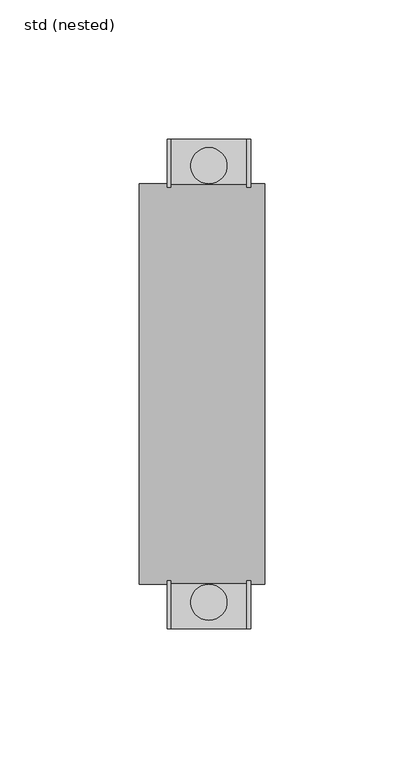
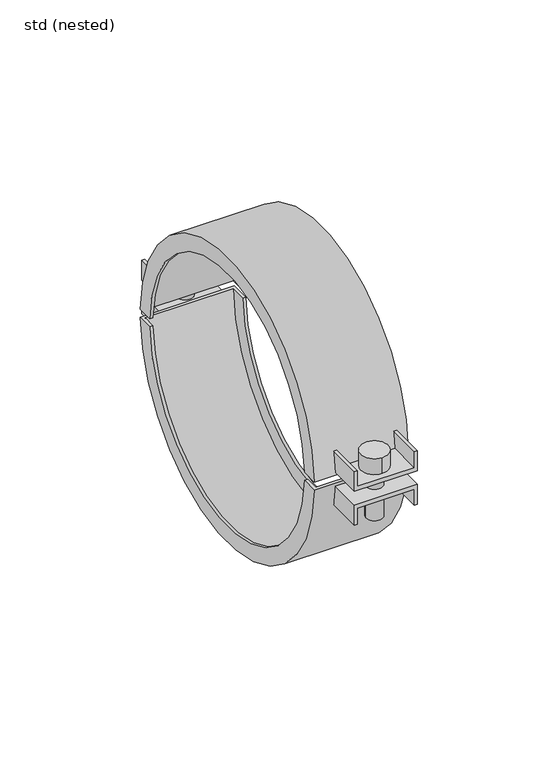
"""IFC4 building model written with IfcOpenShell, lengths in millimetres: pipe fitting geometry, ZZZ_do not use_PIF_ST_UN_ACO pipe socket clamp two parts_ACO : std (nested)."""

from ifc_helpers import new_model, si_unit, point, frame, frame_2d, origin, place, context, project, spatial, polyline, circle_curve, trimmed, segment, composite_curve, outline, extrude, source, transform, mapped, element, save
from ifc_brep_helpers import plane_surface, cylinder_surface, revolved_surface, advanced_brep


def std_nested_4a7fe435(model_context):
    return source(origin(), model_context, "Body", "SolidModel", [
        advanced_brep(
        [(-22.5, 71.9722169, -2.0), (-22.5, -71.9722169, -2.0), (-22.5, -63.9687424, -2.0), (-22.5, 63.9687424, -2.0), (-21.0, -63.9687424, -2.0), (-21.0, 63.9687424, -2.0), (-21.0, -70.4716255, -2.0), (-21.0, 70.4716255, -2.0), (21.0, -70.4716255, -2.0), (21.0, 70.4716255, -2.0), (21.0, -62.4679918, -2.0), (21.0, 62.4679918, -2.0), (22.5, -62.4679918, -2.0), (22.5, 62.4679918, -2.0), (22.5, -71.9722169, -2.0), (22.5, 71.9722169, -2.0)],
        [
            (0, 1, circle_curve(frame((-22.5, 0.0, 0.0), z_axis=(-1.0, 0.0, 0.0), x_axis=(0.0, 1.0, 0.0)), 72.0)),
            (1, 2),
            (2, 3, circle_curve(frame((-22.5, 0.0, 0.0), z_axis=(1.0, 0.0, 0.0), x_axis=(0.0, 1.0, 0.0)), 64.0)),
            (3, 0),
            (2, 4),
            (4, 5, circle_curve(frame((-21.0, 0.0, 0.0), z_axis=(1.0, 0.0, 0.0), x_axis=(0.0, 1.0, 0.0)), 64.0)),
            (5, 3),
            (4, 6),
            (6, 7, circle_curve(frame((-21.0, 0.0, 0.0), z_axis=(1.0, 0.0, 0.0), x_axis=(0.0, 1.0, 0.0)), 70.5)),
            (7, 5),
            (6, 8),
            (8, 9, circle_curve(frame((21.0, 0.0, 0.0), z_axis=(1.0, 0.0, 0.0), x_axis=(0.0, 1.0, 0.0)), 70.5)),
            (9, 7),
            (8, 10),
            (10, 11, circle_curve(frame((21.0, 0.0, 0.0), z_axis=(1.0, 0.0, 0.0), x_axis=(0.0, 1.0, 0.0)), 62.5)),
            (11, 9),
            (10, 12),
            (12, 13, circle_curve(frame((22.5, 0.0, 0.0), z_axis=(1.0, 0.0, 0.0), x_axis=(0.0, 1.0, 0.0)), 62.5)),
            (13, 11),
            (12, 14),
            (14, 15, circle_curve(frame((22.5, 0.0, 0.0), z_axis=(1.0, 0.0, 0.0), x_axis=(0.0, 1.0, 0.0)), 72.0)),
            (15, 13),
            (0, 15),
            (14, 1),
        ],
        [
            plane_surface(frame((-22.5, 0.0, 0.0), z_axis=(-1.0, 0.0, 0.0), x_axis=(0.0, 1.0, 0.0))),
            revolved_surface(polyline([(-22.5, 64.0, 0.0), (-21.0, 64.0, 0.0)]), (-37.5, 0.0, 0.0), (-1.0, 0.0, 0.0)),
            plane_surface(frame((-21.0, 0.0, 0.0), z_axis=(1.0, 0.0, 0.0), x_axis=(0.0, 1.0, 0.0))),
            revolved_surface(polyline([(-21.0, 70.5, 0.0), (21.0, 70.5, 0.0)]), (-37.5, 0.0, 0.0), (-1.0, 0.0, 0.0)),
            plane_surface(frame((21.0, 0.0, 0.0), z_axis=(-1.0, 0.0, 0.0), x_axis=(0.0, 1.0, 0.0))),
            revolved_surface(polyline([(21.0, 62.5, 0.0), (22.5, 62.5, 0.0)]), (-37.5, 0.0, 0.0), (-1.0, 0.0, 0.0)),
            plane_surface(frame((22.5, 0.0, 0.0), z_axis=(1.0, 0.0, 0.0), x_axis=(0.0, 1.0, 0.0))),
            cylinder_surface(frame((-37.5, 0.0, 0.0), z_axis=(-1.0, 0.0, 0.0), x_axis=(0.0, 1.0, 0.0)), 72.0),
            plane_surface(frame((22.5, -73.0, -2.0), z_axis=(0.0, 0.0, 1.0), x_axis=(-1.0, 0.0, 0.0))),
        ],
        [
            (0, [[1, 2, 3, 4]]),
            (1, [[-3, 5, 6, 7]]),
            (2, [[-6, 8, 9, 10]]),
            (3, [[-9, 11, 12, 13]]),
            (4, [[-12, 14, 15, 16]]),
            (5, [[-15, 17, 18, 19]]),
            (6, [[-18, 20, 21, 22]]),
            (7, [[-1, 23, -21, 24]]),
            (8, [[-2, -24, -20, -17, -14, -11, -8, -5]]),
            (8, [[-4, -7, -10, -13, -16, -19, -22, -23]]),
        ],
    ),
        advanced_brep(
        [(-22.5, -71.9722169, 2.0), (-22.5, 71.9722169, 2.0), (-22.5, 63.9687424, 2.0), (-22.5, -63.9687424, 2.0), (-21.0, 63.9687424, 2.0), (-21.0, -63.9687424, 2.0), (-21.0, 70.4716255, 2.0), (-21.0, -70.4716255, 2.0), (21.0, 70.4716255, 2.0), (21.0, -70.4716255, 2.0), (21.0, 62.4679918, 2.0), (21.0, -62.4679918, 2.0), (22.5, 62.4679918, 2.0), (22.5, -62.4679918, 2.0), (22.5, 71.9722169, 2.0), (22.5, -71.9722169, 2.0)],
        [
            (0, 1, circle_curve(frame((-22.5, 0.0, 0.0), z_axis=(-1.0, 0.0, 0.0), x_axis=(0.0, 1.0, 0.0)), 72.0)),
            (1, 2),
            (2, 3, circle_curve(frame((-22.5, 0.0, 0.0), z_axis=(1.0, 0.0, 0.0), x_axis=(0.0, 1.0, 0.0)), 64.0)),
            (3, 0),
            (2, 4),
            (4, 5, circle_curve(frame((-21.0, 0.0, 0.0), z_axis=(1.0, 0.0, 0.0), x_axis=(0.0, 1.0, 0.0)), 64.0)),
            (5, 3),
            (4, 6),
            (6, 7, circle_curve(frame((-21.0, 0.0, 0.0), z_axis=(1.0, 0.0, 0.0), x_axis=(0.0, 1.0, 0.0)), 70.5)),
            (7, 5),
            (6, 8),
            (8, 9, circle_curve(frame((21.0, 0.0, 0.0), z_axis=(1.0, 0.0, 0.0), x_axis=(0.0, 1.0, 0.0)), 70.5)),
            (9, 7),
            (8, 10),
            (10, 11, circle_curve(frame((21.0, 0.0, 0.0), z_axis=(1.0, 0.0, 0.0), x_axis=(0.0, 1.0, 0.0)), 62.5)),
            (11, 9),
            (10, 12),
            (12, 13, circle_curve(frame((22.5, 0.0, 0.0), z_axis=(1.0, 0.0, 0.0), x_axis=(0.0, 1.0, 0.0)), 62.5)),
            (13, 11),
            (12, 14),
            (14, 15, circle_curve(frame((22.5, 0.0, 0.0), z_axis=(1.0, 0.0, 0.0), x_axis=(0.0, 1.0, 0.0)), 72.0)),
            (15, 13),
            (0, 15),
            (14, 1),
        ],
        [
            plane_surface(frame((-22.5, 0.0, 0.0), z_axis=(-1.0, 0.0, 0.0), x_axis=(0.0, 1.0, 0.0))),
            revolved_surface(polyline([(-22.5, 64.0, 0.0), (-21.0, 64.0, 0.0)]), (-37.5, 0.0, 0.0), (-1.0, 0.0, 0.0)),
            plane_surface(frame((-21.0, 0.0, 0.0), z_axis=(1.0, 0.0, 0.0), x_axis=(0.0, 1.0, 0.0))),
            revolved_surface(polyline([(-21.0, 70.5, 0.0), (21.0, 70.5, 0.0)]), (-37.5, 0.0, 0.0), (-1.0, 0.0, 0.0)),
            plane_surface(frame((21.0, 0.0, 0.0), z_axis=(-1.0, 0.0, 0.0), x_axis=(0.0, 1.0, 0.0))),
            revolved_surface(polyline([(21.0, 62.5, 0.0), (22.5, 62.5, 0.0)]), (-37.5, 0.0, 0.0), (-1.0, 0.0, 0.0)),
            plane_surface(frame((22.5, 0.0, 0.0), z_axis=(1.0, 0.0, 0.0), x_axis=(0.0, 1.0, 0.0))),
            cylinder_surface(frame((-37.5, 0.0, 0.0), z_axis=(-1.0, 0.0, 0.0), x_axis=(0.0, 1.0, 0.0)), 72.0),
            plane_surface(frame((22.5, 73.0, 2.0), z_axis=(0.0, 0.0, -1.0), x_axis=(-1.0, 0.0, 0.0))),
        ],
        [
            (0, [[1, 2, 3, 4]]),
            (1, [[-3, 5, 6, 7]]),
            (2, [[-6, 8, 9, 10]]),
            (3, [[-9, 11, 12, 13]]),
            (4, [[-12, 14, 15, 16]]),
            (5, [[-15, 17, 18, 19]]),
            (6, [[-18, 20, 21, 22]]),
            (7, [[-1, 23, -21, 24]]),
            (8, [[-2, -24, -20, -17, -14, -11, -8, -5]]),
            (8, [[-4, -7, -10, -13, -16, -19, -22, -23]]),
        ],
    ),
        extrude(outline(composite_curve([segment(trimmed(circle_curve(frame_2d((2.5, -78.4)), 6.5), [point((2.5, -71.9))], [point((2.5, -84.9))], False, "CARTESIAN"), True, "CONTINUOUS"), segment(trimmed(circle_curve(frame_2d((2.5, -78.4)), 6.5), [point((2.5, -84.9))], [point((2.5, -71.9))], False, "CARTESIAN"), True, "CONTINUOUS")], self_intersect=False)), frame((0.0, 0.0, 5.5), z_axis=(0.0, 0.0, 1.0), x_axis=(1.0, 0.0, 0.0)), (0.0, 0.0, 1.0), 8.0),
        extrude(outline(composite_curve([segment(trimmed(circle_curve(frame_2d((2.5, -78.4)), 4.0), [point((-1.5, -78.4))], [point((6.5, -78.4))], False, "CARTESIAN"), True, "CONTINUOUS"), segment(trimmed(circle_curve(frame_2d((2.5, -78.4)), 4.0), [point((6.5, -78.4))], [point((-1.5, -78.4))], False, "CARTESIAN"), True, "CONTINUOUS")], self_intersect=False)), frame((0.0, 0.0, -19.5), z_axis=(0.0, 0.0, 1.0), x_axis=(1.0, 0.0, 0.0)), (0.0, 0.0, 1.0), 25.0),
        advanced_brep(
        [(-12.5, -87.9, -3.5), (-12.5, -87.9, -13.5), (-11.123617, -87.9, -13.5), (-11.123617, -87.9, -5.5), (16.123617, -87.9, -5.5), (16.123617, -87.9, -13.5), (17.5, -87.9, -13.5), (17.5, -87.9, -3.5), (17.5, -70.413067, -3.5), (-12.5, -70.413067, -3.5), (17.5, -69.1953756, -13.5), (16.123617, -69.1953756, -13.5), (16.123617, -70.2851336, -5.5), (-11.123617, -70.2851336, -5.5), (-11.123617, -69.1953756, -13.5), (-12.5, -69.1953756, -13.5)],
        [
            (0, 1),
            (1, 2),
            (2, 3),
            (3, 4),
            (4, 5),
            (5, 6),
            (6, 7),
            (7, 0),
            (7, 8),
            (8, 9),
            (9, 0),
            (6, 10),
            (10, 8, circle_curve(frame((17.5, 0.0, 0.0), z_axis=(-1.0, 0.0, 0.0), x_axis=(0.0, 1.0, 0.0)), 70.5)),
            (5, 11),
            (11, 10),
            (4, 12),
            (12, 11, circle_curve(frame((16.123617, 0.0, 0.0), z_axis=(1.0, 0.0, 0.0), x_axis=(0.0, 1.0, 0.0)), 70.5)),
            (3, 13),
            (13, 12),
            (2, 14),
            (14, 13, circle_curve(frame((-11.123617, 0.0, 0.0), z_axis=(-1.0, 0.0, 0.0), x_axis=(0.0, 1.0, 0.0)), 70.5)),
            (1, 15),
            (15, 14),
            (9, 15, circle_curve(frame((-12.5, 0.0, 0.0), z_axis=(1.0, 0.0, 0.0), x_axis=(0.0, 1.0, 0.0)), 70.5)),
        ],
        [
            plane_surface(frame((2.5, -87.9, -3.5), z_axis=(0.0, -1.0, 0.0), x_axis=(0.0, 0.0, 1.0))),
            plane_surface(frame((17.5, -87.9, -3.5), z_axis=(0.0, 0.0, 1.0), x_axis=(0.0, 1.0, 0.0))),
            plane_surface(frame((17.5, -87.9, -13.5), z_axis=(1.0, 0.0, 0.0), x_axis=(0.0, 1.0, 0.0))),
            plane_surface(frame((16.123617, -87.9, -13.5), z_axis=(0.0, 0.0, -1.0), x_axis=(0.0, 1.0, 0.0))),
            plane_surface(frame((16.123617, -87.9, -5.5), z_axis=(-1.0, 0.0, 0.0), x_axis=(0.0, 1.0, 0.0))),
            plane_surface(frame((-11.123617, -87.9, -5.5), z_axis=(0.0, 0.0, -1.0), x_axis=(0.0, 1.0, 0.0))),
            plane_surface(frame((-11.123617, -87.9, -13.5), z_axis=(1.0, 0.0, 0.0), x_axis=(0.0, 1.0, 0.0))),
            plane_surface(frame((-12.5, -87.9, -13.5), z_axis=(0.0, 0.0, -1.0), x_axis=(0.0, 1.0, 0.0))),
            plane_surface(frame((-12.5, -87.9, -3.5), z_axis=(-1.0, 0.0, 0.0), x_axis=(0.0, 1.0, 0.0))),
            revolved_surface(polyline([(-12.5, 70.5, 0.0), (17.5, 70.5, 0.0)]), (-60.75, 0.0, 0.0), (-1.0, 0.0, 0.0)),
        ],
        [
            (0, [[1, 2, 3, 4, 5, 6, 7, 8]]),
            (1, [[-8, 9, 10, 11]]),
            (2, [[-7, 12, 13, -9]]),
            (3, [[-6, 14, 15, -12]]),
            (4, [[-5, 16, 17, -14]]),
            (5, [[-4, 18, 19, -16]]),
            (6, [[-3, 20, 21, -18]]),
            (7, [[-2, 22, 23, -20]]),
            (8, [[-1, -11, 24, -22]]),
            (9, [[-10, -13, -15, -17, -19, -21, -23, -24]]),
        ],
    ),
        advanced_brep(
        [(-12.5, 87.9, -3.5), (17.5, 87.9, -3.5), (17.5, 87.9, -13.5), (16.123617, 87.9, -13.5), (16.123617, 87.9, -5.5), (-11.123617, 87.9, -5.5), (-11.123617, 87.9, -13.5), (-12.5, 87.9, -13.5), (-12.5, 70.413067, -3.5), (17.5, 70.413067, -3.5), (17.5, 69.1953756, -13.5), (16.123617, 69.1953756, -13.5), (16.123617, 70.2851336, -5.5), (-11.123617, 70.2851336, -5.5), (-11.123617, 69.1953756, -13.5), (-12.5, 69.1953756, -13.5)],
        [
            (0, 1),
            (1, 2),
            (2, 3),
            (3, 4),
            (4, 5),
            (5, 6),
            (6, 7),
            (7, 0),
            (0, 8),
            (8, 9),
            (9, 1),
            (9, 10, circle_curve(frame((17.5, 0.0, 0.0), z_axis=(-1.0, 0.0, 0.0), x_axis=(0.0, 1.0, 0.0)), 70.5)),
            (10, 2),
            (10, 11),
            (11, 3),
            (11, 12, circle_curve(frame((16.123617, 0.0, 0.0), z_axis=(1.0, 0.0, 0.0), x_axis=(0.0, 1.0, 0.0)), 70.5)),
            (12, 4),
            (12, 13),
            (13, 5),
            (13, 14, circle_curve(frame((-11.123617, 0.0, 0.0), z_axis=(-1.0, 0.0, 0.0), x_axis=(0.0, 1.0, 0.0)), 70.5)),
            (14, 6),
            (14, 15),
            (15, 7),
            (15, 8, circle_curve(frame((-12.5, 0.0, 0.0), z_axis=(1.0, 0.0, 0.0), x_axis=(0.0, 1.0, 0.0)), 70.5)),
        ],
        [
            plane_surface(frame((2.5, 87.9, -3.5), z_axis=(0.0, 1.0, 0.0), x_axis=(0.0, 0.0, 1.0))),
            plane_surface(frame((17.5, -87.9, -3.5), z_axis=(0.0, 0.0, 1.0), x_axis=(0.0, 1.0, 0.0))),
            plane_surface(frame((17.5, -87.9, -13.5), z_axis=(1.0, 0.0, 0.0), x_axis=(0.0, 1.0, 0.0))),
            plane_surface(frame((16.123617, -87.9, -13.5), z_axis=(0.0, 0.0, -1.0), x_axis=(0.0, 1.0, 0.0))),
            plane_surface(frame((16.123617, -87.9, -5.5), z_axis=(-1.0, 0.0, 0.0), x_axis=(0.0, 1.0, 0.0))),
            plane_surface(frame((-11.123617, -87.9, -5.5), z_axis=(0.0, 0.0, -1.0), x_axis=(0.0, 1.0, 0.0))),
            plane_surface(frame((-11.123617, -87.9, -13.5), z_axis=(1.0, 0.0, 0.0), x_axis=(0.0, 1.0, 0.0))),
            plane_surface(frame((-12.5, -87.9, -13.5), z_axis=(0.0, 0.0, -1.0), x_axis=(0.0, 1.0, 0.0))),
            plane_surface(frame((-12.5, -87.9, -3.5), z_axis=(-1.0, 0.0, 0.0), x_axis=(0.0, 1.0, 0.0))),
            revolved_surface(polyline([(-12.5, 70.5, 0.0), (17.5, 70.5, 0.0)]), (-60.75, 0.0, 0.0), (-1.0, 0.0, 0.0)),
        ],
        [
            (0, [[1, 2, 3, 4, 5, 6, 7, 8]]),
            (1, [[-1, 9, 10, 11]]),
            (2, [[-2, -11, 12, 13]]),
            (3, [[-3, -13, 14, 15]]),
            (4, [[-4, -15, 16, 17]]),
            (5, [[-5, -17, 18, 19]]),
            (6, [[-6, -19, 20, 21]]),
            (7, [[-7, -21, 22, 23]]),
            (8, [[-8, -23, 24, -9]]),
            (9, [[-10, -24, -22, -20, -18, -16, -14, -12]]),
        ],
    ),
        advanced_brep(
        [(-12.5, -87.9, 3.5), (17.5, -87.9, 3.5), (17.5, -87.9, 13.5), (16.123617, -87.9, 13.5), (16.123617, -87.9, 5.5), (-11.123617, -87.9, 5.5), (-11.123617, -87.9, 13.5), (-12.5, -87.9, 13.5), (-12.5, -70.413067, 3.5), (17.5, -70.413067, 3.5), (17.5, -69.1953756, 13.5), (16.123617, -69.1953756, 13.5), (16.123617, -70.2851336, 5.5), (-11.123617, -70.2851336, 5.5), (-11.123617, -69.1953756, 13.5), (-12.5, -69.1953756, 13.5)],
        [
            (0, 1),
            (1, 2),
            (2, 3),
            (3, 4),
            (4, 5),
            (5, 6),
            (6, 7),
            (7, 0),
            (0, 8),
            (8, 9),
            (9, 1),
            (9, 10, circle_curve(frame((17.5, 0.0, 0.0), z_axis=(-1.0, 0.0, 0.0), x_axis=(0.0, 1.0, 0.0)), 70.5)),
            (10, 2),
            (10, 11),
            (11, 3),
            (11, 12, circle_curve(frame((16.123617, 0.0, 0.0), z_axis=(1.0, 0.0, 0.0), x_axis=(0.0, 1.0, 0.0)), 70.5)),
            (12, 4),
            (12, 13),
            (13, 5),
            (13, 14, circle_curve(frame((-11.123617, 0.0, 0.0), z_axis=(-1.0, 0.0, 0.0), x_axis=(0.0, 1.0, 0.0)), 70.5)),
            (14, 6),
            (14, 15),
            (15, 7),
            (15, 8, circle_curve(frame((-12.5, 0.0, 0.0), z_axis=(1.0, 0.0, 0.0), x_axis=(0.0, 1.0, 0.0)), 70.5)),
        ],
        [
            plane_surface(frame((2.5, -87.9, 3.5), z_axis=(0.0, -1.0, 0.0), x_axis=(0.0, 0.0, 1.0))),
            plane_surface(frame((-12.5, -87.9, 3.5), z_axis=(0.0, 0.0, -1.0), x_axis=(0.0, 1.0, 0.0))),
            plane_surface(frame((17.5, -87.9, 3.5), z_axis=(1.0, 0.0, 0.0), x_axis=(0.0, 1.0, 0.0))),
            plane_surface(frame((17.5, -87.9, 13.5), z_axis=(0.0, 0.0, 1.0), x_axis=(0.0, 1.0, 0.0))),
            plane_surface(frame((16.123617, -87.9, 13.5), z_axis=(-1.0, 0.0, 0.0), x_axis=(0.0, 1.0, 0.0))),
            plane_surface(frame((16.123617, -87.9, 5.5), z_axis=(0.0, 0.0, 1.0), x_axis=(0.0, 1.0, 0.0))),
            plane_surface(frame((-11.123617, -87.9, 5.5), z_axis=(1.0, 0.0, 0.0), x_axis=(0.0, 1.0, 0.0))),
            plane_surface(frame((-11.123617, -87.9, 13.5), z_axis=(0.0, 0.0, 1.0), x_axis=(0.0, 1.0, 0.0))),
            plane_surface(frame((-12.5, -87.9, 13.5), z_axis=(-1.0, 0.0, 0.0), x_axis=(0.0, 1.0, 0.0))),
            revolved_surface(polyline([(-12.5, 70.5, 0.0), (17.5, 70.5, 0.0)]), (-60.75, 0.0, 0.0), (-1.0, 0.0, 0.0)),
        ],
        [
            (0, [[1, 2, 3, 4, 5, 6, 7, 8]]),
            (1, [[-1, 9, 10, 11]]),
            (2, [[-2, -11, 12, 13]]),
            (3, [[-3, -13, 14, 15]]),
            (4, [[-4, -15, 16, 17]]),
            (5, [[-5, -17, 18, 19]]),
            (6, [[-6, -19, 20, 21]]),
            (7, [[-7, -21, 22, 23]]),
            (8, [[-8, -23, 24, -9]]),
            (9, [[-10, -24, -22, -20, -18, -16, -14, -12]]),
        ],
    ),
        advanced_brep(
        [(-12.5, 87.9, 3.5), (-12.5, 87.9, 13.5), (-11.123617, 87.9, 13.5), (-11.123617, 87.9, 5.5), (16.123617, 87.9, 5.5), (16.123617, 87.9, 13.5), (17.5, 87.9, 13.5), (17.5, 87.9, 3.5), (17.5, 70.413067, 3.5), (-12.5, 70.413067, 3.5), (17.5, 69.1953756, 13.5), (16.123617, 69.1953756, 13.5), (16.123617, 70.2851336, 5.5), (-11.123617, 70.2851336, 5.5), (-11.123617, 69.1953756, 13.5), (-12.5, 69.1953756, 13.5)],
        [
            (0, 1),
            (1, 2),
            (2, 3),
            (3, 4),
            (4, 5),
            (5, 6),
            (6, 7),
            (7, 0),
            (7, 8),
            (8, 9),
            (9, 0),
            (6, 10),
            (10, 8, circle_curve(frame((17.5, 0.0, 0.0), z_axis=(-1.0, 0.0, 0.0), x_axis=(0.0, 1.0, 0.0)), 70.5)),
            (5, 11),
            (11, 10),
            (4, 12),
            (12, 11, circle_curve(frame((16.123617, 0.0, 0.0), z_axis=(1.0, 0.0, 0.0), x_axis=(0.0, 1.0, 0.0)), 70.5)),
            (3, 13),
            (13, 12),
            (2, 14),
            (14, 13, circle_curve(frame((-11.123617, 0.0, 0.0), z_axis=(-1.0, 0.0, 0.0), x_axis=(0.0, 1.0, 0.0)), 70.5)),
            (1, 15),
            (15, 14),
            (9, 15, circle_curve(frame((-12.5, 0.0, 0.0), z_axis=(1.0, 0.0, 0.0), x_axis=(0.0, 1.0, 0.0)), 70.5)),
        ],
        [
            plane_surface(frame((2.5, 87.9, 3.5), z_axis=(0.0, 1.0, 0.0), x_axis=(0.0, 0.0, 1.0))),
            plane_surface(frame((-12.5, -87.9, 3.5), z_axis=(0.0, 0.0, -1.0), x_axis=(0.0, 1.0, 0.0))),
            plane_surface(frame((17.5, -87.9, 3.5), z_axis=(1.0, 0.0, 0.0), x_axis=(0.0, 1.0, 0.0))),
            plane_surface(frame((17.5, -87.9, 13.5), z_axis=(0.0, 0.0, 1.0), x_axis=(0.0, 1.0, 0.0))),
            plane_surface(frame((16.123617, -87.9, 13.5), z_axis=(-1.0, 0.0, 0.0), x_axis=(0.0, 1.0, 0.0))),
            plane_surface(frame((16.123617, -87.9, 5.5), z_axis=(0.0, 0.0, 1.0), x_axis=(0.0, 1.0, 0.0))),
            plane_surface(frame((-11.123617, -87.9, 5.5), z_axis=(1.0, 0.0, 0.0), x_axis=(0.0, 1.0, 0.0))),
            plane_surface(frame((-11.123617, -87.9, 13.5), z_axis=(0.0, 0.0, 1.0), x_axis=(0.0, 1.0, 0.0))),
            plane_surface(frame((-12.5, -87.9, 13.5), z_axis=(-1.0, 0.0, 0.0), x_axis=(0.0, 1.0, 0.0))),
            revolved_surface(polyline([(-12.5, 70.5, 0.0), (17.5, 70.5, 0.0)]), (-60.75, 0.0, 0.0), (-1.0, 0.0, 0.0)),
        ],
        [
            (0, [[1, 2, 3, 4, 5, 6, 7, 8]]),
            (1, [[-8, 9, 10, 11]]),
            (2, [[-7, 12, 13, -9]]),
            (3, [[-6, 14, 15, -12]]),
            (4, [[-5, 16, 17, -14]]),
            (5, [[-4, 18, 19, -16]]),
            (6, [[-3, 20, 21, -18]]),
            (7, [[-2, 22, 23, -20]]),
            (8, [[-1, -11, 24, -22]]),
            (9, [[-10, -13, -15, -17, -19, -21, -23, -24]]),
        ],
    ),
        extrude(outline(composite_curve([segment(trimmed(circle_curve(frame_2d((2.5, 78.4)), 6.5), [point((2.5, 71.9))], [point((2.5, 84.9))], False, "CARTESIAN"), True, "CONTINUOUS"), segment(trimmed(circle_curve(frame_2d((2.5, 78.4)), 6.5), [point((2.5, 84.9))], [point((2.5, 71.9))], False, "CARTESIAN"), True, "CONTINUOUS")], self_intersect=False)), frame((0.0, 0.0, 5.5), z_axis=(0.0, 0.0, 1.0), x_axis=(1.0, 0.0, 0.0)), (0.0, 0.0, 1.0), 8.0),
        extrude(outline(composite_curve([segment(trimmed(circle_curve(frame_2d((2.5, 78.4)), 4.0), [point((-1.5, 78.4))], [point((6.5, 78.4))], False, "CARTESIAN"), True, "CONTINUOUS"), segment(trimmed(circle_curve(frame_2d((2.5, 78.4)), 4.0), [point((6.5, 78.4))], [point((-1.5, 78.4))], False, "CARTESIAN"), True, "CONTINUOUS")], self_intersect=False)), frame((0.0, 0.0, -19.5), z_axis=(0.0, 0.0, 1.0), x_axis=(1.0, 0.0, 0.0)), (0.0, 0.0, 1.0), 25.0),
    ])


if __name__ == "__main__":
    model = new_model("IFC4")
    model_context = context("Model", 3, world=origin())
    ifc_project = project(units=[si_unit("LENGTHUNIT", "METRE", prefix="MILLI")], contexts=[model_context])
    site = spatial("IfcSite", under=ifc_project)
    building = spatial("IfcBuilding", under=site)
    placement = place(None, origin())
    std_nested_shape = std_nested_4a7fe435(model_context)
    element("IfcPipeFitting", 1, ObjectType="ZZZ_do not use_PIF_ST_UN_ACO pipe socket clamp two parts_ACO : std (nested)", at=placement, inside=building, context=model_context, shape_type="MappedRepresentation", body=[
        mapped(std_nested_shape, transform((0.0, 0.0, 0.0), x_axis=(1.0, 0.0, 0.0), y_axis=(0.0, 1.0, 0.0), z_axis=(0.0, 0.0, 1.0))),
    ])
    save(model, "model.ifc")
